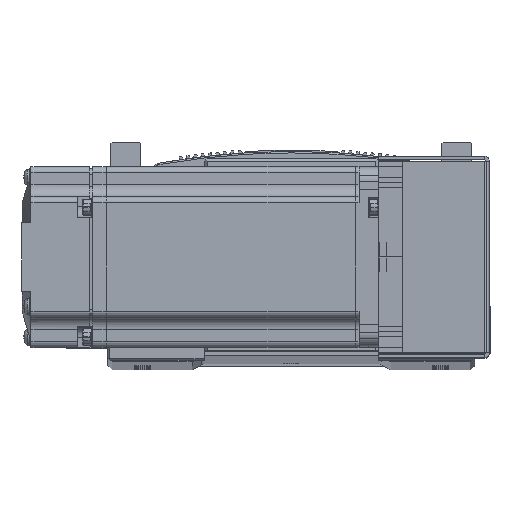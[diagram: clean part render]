
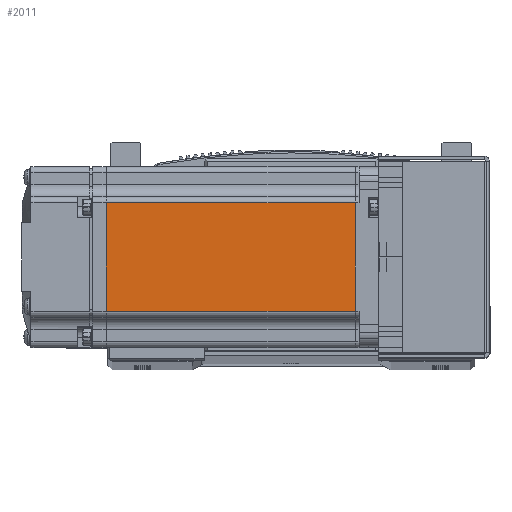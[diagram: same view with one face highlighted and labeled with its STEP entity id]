
A CAD part, top view. The second image highlights one B-rep face of the part: STEP entity #2011.
In plain terms, the highlighted planar face has unit normal (0, 0, 1) as drawn and (0, 1, 0) by its records, which use the part's own axes.
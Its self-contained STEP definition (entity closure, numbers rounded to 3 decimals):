
#1772 = EDGE_LOOP ( 'NONE', ( #54006, #53942, #54044, #53995 ) ) ;
#2011 = ADVANCED_FACE ( 'NONE', ( #47248 ), #76528, .T. ) ;
#6699 = CARTESIAN_POINT ( 'NONE',  ( -7.75, 30., -18. ) ) ;
#8939 = CARTESIAN_POINT ( 'NONE',  ( -90.45, 30., -18. ) ) ;
#8954 = CARTESIAN_POINT ( 'NONE',  ( -7.75, 30., 18. ) ) ;
#8985 = CARTESIAN_POINT ( 'NONE',  ( -90.45, 30., 18. ) ) ;
#34523 = VECTOR ( 'NONE', #64727, 1000. ) ;
#34538 = LINE ( 'NONE', #64697, #34540 ) ;
#34540 = VECTOR ( 'NONE', #64817, 1000. ) ;
#34603 = LINE ( 'NONE', #64749, #34523 ) ;
#34757 = LINE ( 'NONE', #64929, #34759 ) ;
#34759 = VECTOR ( 'NONE', #64904, 1000. ) ;
#35716 = LINE ( 'NONE', #64345, #35720 ) ;
#35720 = VECTOR ( 'NONE', #64353, 1000. ) ;
#45095 = EDGE_CURVE ( 'NONE', #76792, #76784, #35716, .T. ) ;
#45231 = EDGE_CURVE ( 'NONE', #76927, #76784, #34603, .T. ) ;
#45238 = EDGE_CURVE ( 'NONE', #76927, #76775, #34538, .T. ) ;
#45298 = EDGE_CURVE ( 'NONE', #76775, #76792, #34757, .T. ) ;
#47248 = FACE_OUTER_BOUND ( 'NONE', #1772, .T. ) ;
#53942 = ORIENTED_EDGE ( 'NONE', *, *, #45238, .T. ) ;
#53995 = ORIENTED_EDGE ( 'NONE', *, *, #45095, .T. ) ;
#54006 = ORIENTED_EDGE ( 'NONE', *, *, #45231, .F. ) ;
#54044 = ORIENTED_EDGE ( 'NONE', *, *, #45298, .T. ) ;
#59922 = AXIS2_PLACEMENT_3D ( 'NONE', #76541, #76572, #76564 ) ;
#64345 = CARTESIAN_POINT ( 'NONE',  ( -6.5, 30., 18. ) ) ;
#64353 = DIRECTION ( 'NONE',  ( 1., 0., 0. ) ) ;
#64697 = CARTESIAN_POINT ( 'NONE',  ( -6.5, 30., -18. ) ) ;
#64727 = DIRECTION ( 'NONE',  ( 0., 0., 1. ) ) ;
#64749 = CARTESIAN_POINT ( 'NONE',  ( -7.75, 30., 0. ) ) ;
#64817 = DIRECTION ( 'NONE',  ( -1., 0., 0. ) ) ;
#64904 = DIRECTION ( 'NONE',  ( 0., 0., 1. ) ) ;
#64929 = CARTESIAN_POINT ( 'NONE',  ( -90.45, 30., 0. ) ) ;
#76528 = PLANE ( 'NONE',  #59922 ) ;
#76541 = CARTESIAN_POINT ( 'NONE',  ( -6.5, 30., 25. ) ) ;
#76564 = DIRECTION ( 'NONE',  ( 0., 0., 1. ) ) ;
#76572 = DIRECTION ( 'NONE',  ( 0., 1., 0. ) ) ;
#76775 = VERTEX_POINT ( 'NONE', #8939 ) ;
#76784 = VERTEX_POINT ( 'NONE', #8954 ) ;
#76792 = VERTEX_POINT ( 'NONE', #8985 ) ;
#76927 = VERTEX_POINT ( 'NONE', #6699 ) ;
